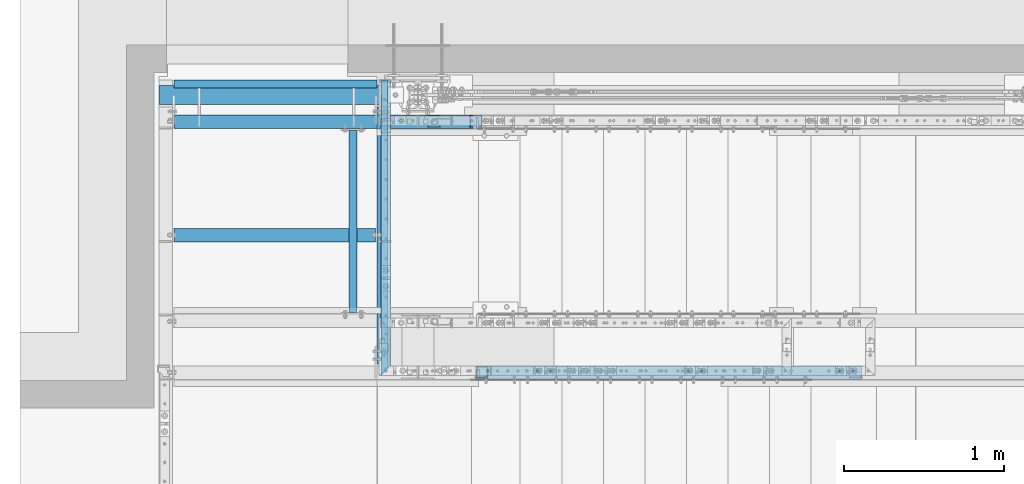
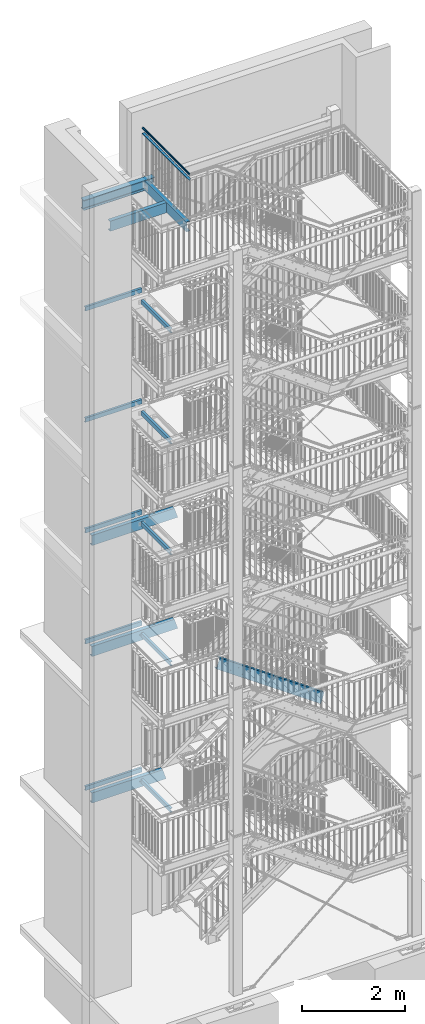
# One storey, part 123 of 825: 18 beams, 1 member, 55 openings.
"""IFC2X3 building model written with IfcOpenShell, lengths in millimetres."""

from ifc_helpers import new_model, entity, si_unit, converted_unit, frame, frame_2d, origin, origin_with_axes, origin_2d, origin_2d_with_axis, place, context, project, spatial, circle_curve, rectangle, circle, hollow_circle, i_section, u_section, outline, extrude, clip, halfspace, material, element, save


model = new_model("IFC2X3")

# Units and contexts
model_context = context("Model", 3, precision=1e-09, world=origin_with_axes())
ifc_project = project(units=[si_unit("LENGTHUNIT", "METRE", prefix="MILLI"), si_unit("AREAUNIT", "SQUARE_METRE"), si_unit("VOLUMEUNIT", "CUBIC_METRE"), converted_unit("PLANEANGLEUNIT", "DEGREE", entity("IfcPlaneAngleMeasure", 0.01745329), si_unit("PLANEANGLEUNIT", "RADIAN"), dimensions=[0, 0, 0, 0, 0, 0, 0])], contexts=[model_context])

# Site, building, storey
site_placement = place(None, origin_with_axes())
site = spatial("IfcSite", under=ifc_project, at=site_placement, Name="Cnopf'sche Kinderklinik", CompositionType="ELEMENT")
building_placement = place(site_placement, origin_with_axes())
building = spatial("IfcBuilding", under=site, at=building_placement, Name="Struktur 1", CompositionType="ELEMENT")
storey_placement = place(building_placement, origin_with_axes())
storey = spatial("IfcBuildingStorey", under=building, at=storey_placement, Name="Default Storey", CompositionType="ELEMENT", Elevation=0.0)

# Beam, openings
ifc_material = material(Name="S235JR")
beam_1_placement = place(None, frame((3074.409632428, 7329.036971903, 9832.0), z_axis=(1.0, 0.0, 0.0), x_axis=(0.0, 1.0, 0.0)))
beam_1 = element("IfcBeam", 1, at=beam_1_placement, inside=storey, material=ifc_material, Name="BottomLanding#2", ObjectType="BottomLanding#2", context=model_context, shape_type="Clipping", body=[
    clip(clip(extrude(u_section(Depth=240.0, FlangeWidth=85.0, WebThickness=9.5, FlangeThickness=13.0, FilletRadius=13.0, EdgeRadius=6.5, FlangeSlope=4.574, at=frame_2d((20.2, 0.0))), origin(), (0.0, 0.0, 1.0), 2366.776191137), halfspace(frame((-7329.036971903, -9832.0, 257.304770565), z_axis=(0.0, 0.0, 1.0), x_axis=(1.0, 0.0, 0.0)), True)), halfspace(frame((-7329.036971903, -7374.852372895, 4528.957619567), z_axis=(0.0, -0.307506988, -0.951545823), x_axis=(-1.0, 0.0, 0.0)), True)),
])
opening_1_placement = place(beam_1_placement, frame((-12.3, 20.0, 1377.303770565), z_axis=(-1.0, 0.0, 0.0), x_axis=(0.0, 0.0, 1.0)))
element("IfcOpeningElement", 2, at=opening_1_placement, cuts=beam_1, ObjectType="Opening", context=model_context, shape_type="SweptSolid", body=[
    extrude(circle(Radius=7.001, at=frame_2d((50.0, 0.0), x_axis=(1.0, 0.0))), origin(), (0.0, 0.0, 1.0), 10.5),
])
opening_2_placement = place(beam_1_placement, frame((-12.3, 20.0, 1377.303770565), z_axis=(-1.0, 0.0, 0.0), x_axis=(0.0, 0.0, 1.0)))
element("IfcOpeningElement", 3, at=opening_2_placement, cuts=beam_1, ObjectType="Opening", context=model_context, shape_type="SweptSolid", body=[
    extrude(circle(Radius=7.001, at=frame_2d((-50.0, 0.0), x_axis=(1.0, 0.0))), origin(), (0.0, 0.0, 1.0), 10.5),
])
opening_3_placement = place(beam_1_placement, frame((27.7, 120.5, 1670.302770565), z_axis=(0.0, 1.0, 0.0), x_axis=(-1.0, 0.0, 0.0)))
element("IfcOpeningElement", 4, at=opening_3_placement, cuts=beam_1, ObjectType="Opening", context=model_context, shape_type="SweptSolid", body=[
    extrude(circle(Radius=7.001, at=frame_2d((0.0, 7.001), x_axis=(1.0, 0.0))), origin(), (0.0, 0.0, -1.0), 14.0),
])
opening_4_placement = place(beam_1_placement, frame((27.7, 120.5, 1570.302770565), z_axis=(0.0, 1.0, 0.0), x_axis=(-1.0, 0.0, 0.0)))
element("IfcOpeningElement", 5, at=opening_4_placement, cuts=beam_1, ObjectType="Opening", context=model_context, shape_type="SweptSolid", body=[
    extrude(circle(Radius=7.001, at=frame_2d((0.0, 7.001), x_axis=(1.0, 0.0))), origin(), (0.0, 0.0, -1.0), 14.0),
])
opening_5_placement = place(beam_1_placement, frame((22.7, -120.5, 1732.303770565), z_axis=(0.0, 1.0, 0.0), x_axis=(1.0, 0.0, 0.0)))
element("IfcOpeningElement", 6, at=opening_5_placement, cuts=beam_1, ObjectType="Opening", context=model_context, shape_type="SweptSolid", body=[
    extrude(circle(Radius=7.001, at=origin_2d_with_axis()), origin(), (0.0, 0.0, 1.0), 14.0),
])
opening_6_placement = place(beam_1_placement, frame((22.7, -120.5, 1832.303770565), z_axis=(0.0, 1.0, 0.0), x_axis=(1.0, 0.0, 0.0)))
element("IfcOpeningElement", 7, at=opening_6_placement, cuts=beam_1, ObjectType="Opening", context=model_context, shape_type="SweptSolid", body=[
    extrude(circle(Radius=7.001, at=origin_2d_with_axis()), origin(), (0.0, 0.0, 1.0), 14.0),
])

beam_2_placement = place(None, frame((3074.409632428, 7329.036971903, 7200.0), z_axis=(1.0, 0.0, 0.0), x_axis=(0.0, 1.0, 0.0)))
beam_2 = element("IfcBeam", 8, at=beam_2_placement, inside=storey, material=ifc_material, Name="BottomLanding#2", ObjectType="BottomLanding#2", context=model_context, shape_type="Clipping", body=[
    clip(clip(extrude(u_section(Depth=240.0, FlangeWidth=85.0, WebThickness=9.5, FlangeThickness=13.0, FilletRadius=13.0, EdgeRadius=6.5, FlangeSlope=4.574, at=frame_2d((20.2, 0.0))), origin(), (0.0, 0.0, 1.0), 2366.919417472), halfspace(frame((-7329.036971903, -7200.0, 257.304770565), z_axis=(0.0, 0.0, 1.0), x_axis=(1.0, 0.0, 0.0)), True)), halfspace(frame((-7329.036971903, -4987.874923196, 3760.219943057), z_axis=(0.0, -0.307936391, -0.951406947), x_axis=(-1.0, 0.0, 0.0)), True)),
])
opening_7_placement = place(beam_2_placement, frame((-12.3, 20.0, 1377.303770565), z_axis=(-1.0, 0.0, 0.0), x_axis=(0.0, 0.0, 1.0)))
element("IfcOpeningElement", 9, at=opening_7_placement, cuts=beam_2, ObjectType="Opening", context=model_context, shape_type="SweptSolid", body=[
    extrude(circle(Radius=7.001, at=frame_2d((50.0, 0.0), x_axis=(1.0, 0.0))), origin(), (0.0, 0.0, 1.0), 10.5),
])
opening_8_placement = place(beam_2_placement, frame((-12.3, 20.0, 1377.303770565), z_axis=(-1.0, 0.0, 0.0), x_axis=(0.0, 0.0, 1.0)))
element("IfcOpeningElement", 10, at=opening_8_placement, cuts=beam_2, ObjectType="Opening", context=model_context, shape_type="SweptSolid", body=[
    extrude(circle(Radius=7.001, at=frame_2d((-50.0, 0.0), x_axis=(1.0, 0.0))), origin(), (0.0, 0.0, 1.0), 10.5),
])
opening_9_placement = place(beam_2_placement, frame((27.7, 120.5, 1670.302770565), z_axis=(0.0, 1.0, 0.0), x_axis=(-1.0, 0.0, 0.0)))
element("IfcOpeningElement", 11, at=opening_9_placement, cuts=beam_2, ObjectType="Opening", context=model_context, shape_type="SweptSolid", body=[
    extrude(circle(Radius=7.001, at=frame_2d((0.0, 7.001), x_axis=(1.0, 0.0))), origin(), (0.0, 0.0, -1.0), 14.0),
])
opening_10_placement = place(beam_2_placement, frame((27.7, 120.5, 1570.302770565), z_axis=(0.0, 1.0, 0.0), x_axis=(-1.0, 0.0, 0.0)))
element("IfcOpeningElement", 12, at=opening_10_placement, cuts=beam_2, ObjectType="Opening", context=model_context, shape_type="SweptSolid", body=[
    extrude(circle(Radius=7.001, at=frame_2d((0.0, 7.001), x_axis=(1.0, 0.0))), origin(), (0.0, 0.0, -1.0), 14.0),
])
opening_11_placement = place(beam_2_placement, frame((22.7, -120.5, 1732.303770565), z_axis=(0.0, 1.0, 0.0), x_axis=(1.0, 0.0, 0.0)))
element("IfcOpeningElement", 13, at=opening_11_placement, cuts=beam_2, ObjectType="Opening", context=model_context, shape_type="SweptSolid", body=[
    extrude(circle(Radius=7.001, at=origin_2d_with_axis()), origin(), (0.0, 0.0, 1.0), 14.0),
])
opening_12_placement = place(beam_2_placement, frame((22.7, -120.5, 1832.303770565), z_axis=(0.0, 1.0, 0.0), x_axis=(1.0, 0.0, 0.0)))
element("IfcOpeningElement", 14, at=opening_12_placement, cuts=beam_2, ObjectType="Opening", context=model_context, shape_type="SweptSolid", body=[
    extrude(circle(Radius=7.001, at=origin_2d_with_axis()), origin(), (0.0, 0.0, 1.0), 14.0),
])

# Beams
for number, where, z_axis, x_axis, name in (
    (15, (4442.213402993, 6157.236971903, 15114.0), (0.0, -1.0, 0.0), (1.0, 0.0, 0.0), "Girder"),
    (16, (4442.213402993, 6157.236971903, 12479.0), (0.0, -1.0, 0.0), (1.0, 0.0, 0.0), "Girder"),
    (17, (4442.213402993, 6157.236971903, 9852.0), (0.0, -1.0, 0.0), (1.0, 0.0, 0.0), "Girder"),
    (18, (4442.213402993, 6157.236971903, 7220.0), (0.0, -1.0, 0.0), (1.0, 0.0, 0.0), "Girder"),
    (19, (4442.213402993, 6157.236971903, 3747.0), (0.0, -1.0, 0.0), (1.0, 0.0, 0.0), "Girder"),
):
    element("IfcBeam", number, at=place(None, frame(where, z_axis=z_axis, x_axis=x_axis)), inside=storey, material=ifc_material, Name=name, ObjectType="Girder", context=model_context, shape_type="SweptSolid", body=[
        extrude(u_section(Depth=100.0, FlangeWidth=50.0, WebThickness=6.0, FlangeThickness=8.5, FilletRadius=8.5, EdgeRadius=4.5, FlangeSlope=4.574, at=frame_2d((9.5, 0.0))), origin(), (0.0, 0.0, -1.0), 1139.0),
    ])

# Beam, openings
beam_3_placement = place(None, frame((4624.013402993, 5836.736971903, 17713.999999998), z_axis=(0.0, -1.0, 0.0), x_axis=(1.0, 0.0, 0.0)))
beam_3 = element("IfcBeam", 20, at=beam_3_placement, inside=storey, material=ifc_material, Name="Girder", ObjectType="Girder", context=model_context, shape_type="SweptSolid", body=[
    extrude(u_section(Depth=240.0, FlangeWidth=85.0, WebThickness=9.5, FlangeThickness=13.0, FilletRadius=13.0, EdgeRadius=6.5, FlangeSlope=4.574, at=frame_2d((20.2, 0.0))), origin(), (0.0, 0.0, -1.0), 1605.0),
])
opening_13_placement = place(beam_3_placement, frame((-12.3, 50.000000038, -71.099), z_axis=(1.0, 0.0, 0.0), x_axis=(0.0, 1.0, 0.0)))
element("IfcOpeningElement", 21, at=opening_13_placement, cuts=beam_3, ObjectType="Opening", context=model_context, shape_type="SweptSolid", body=[
    extrude(circle(Radius=7.001, at=frame_2d((0.0, -7.001), x_axis=(1.0, 0.0))), origin(), (0.0, 0.0, -1.0), 10.5),
])
opening_14_placement = place(beam_3_placement, frame((-12.3, 50.000000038, -21.099), z_axis=(1.0, 0.0, 0.0), x_axis=(0.0, 1.0, 0.0)))
element("IfcOpeningElement", 22, at=opening_14_placement, cuts=beam_3, ObjectType="Opening", context=model_context, shape_type="SweptSolid", body=[
    extrude(circle(Radius=7.001, at=frame_2d((0.0, -7.001), x_axis=(1.0, 0.0))), origin(), (0.0, 0.0, -1.0), 10.5),
])
opening_15_placement = place(beam_3_placement, frame((-12.3, -49.999999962, -71.099), z_axis=(1.0, 0.0, 0.0), x_axis=(0.0, 1.0, 0.0)))
element("IfcOpeningElement", 23, at=opening_15_placement, cuts=beam_3, ObjectType="Opening", context=model_context, shape_type="SweptSolid", body=[
    extrude(circle(Radius=7.001, at=frame_2d((0.0, -7.001), x_axis=(1.0, 0.0))), origin(), (0.0, 0.0, -1.0), 10.5),
])
opening_16_placement = place(beam_3_placement, frame((-12.3, -49.999999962, -21.099), z_axis=(1.0, 0.0, 0.0), x_axis=(0.0, 1.0, 0.0)))
element("IfcOpeningElement", 24, at=opening_16_placement, cuts=beam_3, ObjectType="Opening", context=model_context, shape_type="SweptSolid", body=[
    extrude(circle(Radius=7.001, at=frame_2d((0.0, -7.001), x_axis=(1.0, 0.0))), origin(), (0.0, 0.0, -1.0), 10.5),
])
opening_17_placement = place(beam_3_placement, frame((-12.3, 3.8e-08, -1551.9), z_axis=(-1.0, 0.0, 0.0), x_axis=(0.0, 0.0, 1.0)))
element("IfcOpeningElement", 25, at=opening_17_placement, cuts=beam_3, ObjectType="Opening", context=model_context, shape_type="SweptSolid", body=[
    extrude(circle(Radius=7.001, at=frame_2d((25.0, 50.0), x_axis=(1.0, 0.0))), origin(), (0.0, 0.0, 1.0), 10.5),
])
opening_18_placement = place(beam_3_placement, frame((-12.3, 3.8e-08, -1551.9), z_axis=(-1.0, 0.0, 0.0), x_axis=(0.0, 0.0, 1.0)))
element("IfcOpeningElement", 26, at=opening_18_placement, cuts=beam_3, ObjectType="Opening", context=model_context, shape_type="SweptSolid", body=[
    extrude(circle(Radius=7.001, at=frame_2d((-25.0, 50.0), x_axis=(1.0, 0.0))), origin(), (0.0, 0.0, 1.0), 10.5),
])
opening_19_placement = place(beam_3_placement, frame((-12.3, 3.8e-08, -1551.9), z_axis=(-1.0, 0.0, 0.0), x_axis=(0.0, 0.0, 1.0)))
element("IfcOpeningElement", 27, at=opening_19_placement, cuts=beam_3, ObjectType="Opening", context=model_context, shape_type="SweptSolid", body=[
    extrude(circle(Radius=7.001, at=frame_2d((25.0, -50.0), x_axis=(1.0, 0.0))), origin(), (0.0, 0.0, 1.0), 10.5),
])
opening_20_placement = place(beam_3_placement, frame((-12.3, 3.8e-08, -1551.9), z_axis=(-1.0, 0.0, 0.0), x_axis=(0.0, 0.0, 1.0)))
element("IfcOpeningElement", 28, at=opening_20_placement, cuts=beam_3, ObjectType="Opening", context=model_context, shape_type="SweptSolid", body=[
    extrude(circle(Radius=7.001, at=frame_2d((-25.0, -50.0), x_axis=(1.0, 0.0))), origin(), (0.0, 0.0, 1.0), 10.5),
])
opening_21_placement = place(beam_3_placement, frame((32.7, 120.5, -1567.999), z_axis=(0.0, 1.0, 0.0), x_axis=(-1.0, 0.0, 0.0)))
element("IfcOpeningElement", 29, at=opening_21_placement, cuts=beam_3, ObjectType="Opening", context=model_context, shape_type="SweptSolid", body=[
    extrude(circle(Radius=7.001, at=frame_2d((0.0, -7.001), x_axis=(1.0, 0.0))), origin(), (0.0, 0.0, -1.0), 14.0),
])
opening_22_placement = place(beam_3_placement, frame((32.7, 120.5, -1467.999), z_axis=(0.0, 1.0, 0.0), x_axis=(-1.0, 0.0, 0.0)))
element("IfcOpeningElement", 30, at=opening_22_placement, cuts=beam_3, ObjectType="Opening", context=model_context, shape_type="SweptSolid", body=[
    extrude(circle(Radius=7.001, at=frame_2d((0.0, -7.001), x_axis=(1.0, 0.0))), origin(), (0.0, 0.0, -1.0), 14.0),
])
opening_23_placement = place(beam_3_placement, frame((32.7, 120.5, -576.74875), z_axis=(0.0, 1.0, 0.0), x_axis=(-1.0, 0.0, 0.0)))
element("IfcOpeningElement", 31, at=opening_23_placement, cuts=beam_3, ObjectType="Opening", context=model_context, shape_type="SweptSolid", body=[
    extrude(circle(Radius=7.001, at=frame_2d((0.0, -7.001), x_axis=(1.0, 0.0))), origin(), (0.0, 0.0, -1.0), 14.0),
])
opening_24_placement = place(beam_3_placement, frame((32.7, 120.5, -476.74875), z_axis=(0.0, 1.0, 0.0), x_axis=(-1.0, 0.0, 0.0)))
element("IfcOpeningElement", 32, at=opening_24_placement, cuts=beam_3, ObjectType="Opening", context=model_context, shape_type="SweptSolid", body=[
    extrude(circle(Radius=7.001, at=frame_2d((0.0, -7.001), x_axis=(1.0, 0.0))), origin(), (0.0, 0.0, -1.0), 14.0),
])
opening_25_placement = place(beam_3_placement, frame((-22.8, 50.999, -805.0), z_axis=(-1.0, 0.0, 0.0), x_axis=(0.0, -1.0, 0.0)))
element("IfcOpeningElement", 33, at=opening_25_placement, cuts=beam_3, ObjectType="Opening", context=model_context, shape_type="SweptSolid", body=[
    extrude(circle(Radius=9.001, at=frame_2d((-9.001, 0.0), x_axis=(1.0, 0.0))), origin(), (0.0, 0.0, -1.0), 10.5),
])
opening_26_placement = place(beam_3_placement, frame((-22.8, -69.001, -805.0), z_axis=(-1.0, 0.0, 0.0), x_axis=(0.0, -1.0, 0.0)))
element("IfcOpeningElement", 34, at=opening_26_placement, cuts=beam_3, ObjectType="Opening", context=model_context, shape_type="SweptSolid", body=[
    extrude(circle(Radius=9.001, at=frame_2d((-9.001, 0.0), x_axis=(1.0, 0.0))), origin(), (0.0, 0.0, -1.0), 10.5),
])

# Beams
beam_4_placement = place(None, frame((4849.017173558, 6619.036971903, 17713.999999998), z_axis=(1.0, 0.0, 0.0), x_axis=(0.0, 1.0, 0.0)))
element("IfcBeam", 35, at=beam_4_placement, inside=storey, material=ifc_material, Name="Girder", ObjectType="Girder", context=model_context, shape_type="Clipping", body=[
    clip(clip(extrude(u_section(Depth=240.0, FlangeWidth=85.0, WebThickness=9.5, FlangeThickness=13.0, FilletRadius=13.0, EdgeRadius=6.5, FlangeSlope=4.574, at=frame_2d((20.2, 0.0))), origin(), (0.0, 0.0, -1.0), 1774.60754113), halfspace(frame((-6619.036971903, -17713.999999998, -1517.302770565), z_axis=(0.0, 0.0, 1.0), x_axis=(1.0, 0.0, 0.0)), True)), halfspace(frame((-6619.036971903, -17713.999999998, -257.304770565), z_axis=(0.0, 0.0, -1.0), x_axis=(-1.0, 0.0, 0.0)), True)),
])
for number, where, z_axis, x_axis, name in (
    (36, (4601.713402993, 7577.236971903, 3797.0), (1.0, 0.0, 0.0), (0.0, 1.0, 0.0), "TopLanding#1"),
    (37, (4601.713402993, 7577.236971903, 7270.0), (1.0, 0.0, 0.0), (0.0, 1.0, 0.0), "TopLanding#1"),
    (38, (4601.713402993, 7577.236971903, 9902.0), (1.0, 0.0, 0.0), (0.0, 1.0, 0.0), "TopLanding#1"),
    (39, (4601.713402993, 7577.236971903, 12529.0), (1.0, 0.0, 0.0), (0.0, 1.0, 0.0), "TopLanding#1"),
    (40, (4601.713402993, 7577.236971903, 15164.0), (1.0, 0.0, 0.0), (0.0, 1.0, 0.0), "TopLanding#1"),
):
    element("IfcBeam", number, at=place(None, frame(where, z_axis=z_axis, x_axis=x_axis)), inside=storey, material=ifc_material, Name=name, ObjectType="TopLanding#1", context=model_context, shape_type="SweptSolid", body=[
        extrude(u_section(Depth=100.0, FlangeWidth=50.0, WebThickness=6.0, FlangeThickness=8.5, FilletRadius=8.5, EdgeRadius=4.5, FlangeSlope=4.574, at=frame_2d((9.5, 0.0))), origin(), (0.0, 0.0, -1.0), 1270.0),
    ])

# Beam, openings
beam_5_placement = place(None, frame((3074.409632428, 7329.036971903, 3727.0), z_axis=(1.0, 0.0, 0.0), x_axis=(0.0, 1.0, 0.0)))
beam_5 = element("IfcBeam", 41, at=beam_5_placement, inside=storey, material=ifc_material, Name="BottomLanding#2", ObjectType="BottomLanding#2", context=model_context, shape_type="Clipping", body=[
    clip(clip(extrude(u_section(Depth=240.0, FlangeWidth=85.0, WebThickness=9.5, FlangeThickness=13.0, FilletRadius=13.0, EdgeRadius=6.5, FlangeSlope=4.574, at=frame_2d((20.2, 0.0))), origin(), (0.0, 0.0, 1.0), 2104.790555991), halfspace(frame((-7329.036971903, -3727.0, 257.304770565), z_axis=(0.0, 0.0, 1.0), x_axis=(1.0, 0.0, 0.0)), True)), halfspace(frame((-7329.036971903, -1962.281935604, 2504.118187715), z_axis=(0.0, -0.301609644, -0.953431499), x_axis=(-1.0, 0.0, 0.0)), True)),
])
opening_27_placement = place(beam_5_placement, frame((-12.3, 20.0, 1377.303770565), z_axis=(-1.0, 0.0, 0.0), x_axis=(0.0, 0.0, 1.0)))
element("IfcOpeningElement", 42, at=opening_27_placement, cuts=beam_5, ObjectType="Opening", context=model_context, shape_type="SweptSolid", body=[
    extrude(circle(Radius=7.001, at=frame_2d((50.0, 0.0), x_axis=(1.0, 0.0))), origin(), (0.0, 0.0, 1.0), 10.5),
])
opening_28_placement = place(beam_5_placement, frame((-12.3, 20.0, 1377.303770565), z_axis=(-1.0, 0.0, 0.0), x_axis=(0.0, 0.0, 1.0)))
element("IfcOpeningElement", 43, at=opening_28_placement, cuts=beam_5, ObjectType="Opening", context=model_context, shape_type="SweptSolid", body=[
    extrude(circle(Radius=7.001, at=frame_2d((-50.0, 0.0), x_axis=(1.0, 0.0))), origin(), (0.0, 0.0, 1.0), 10.5),
])
opening_29_placement = place(beam_5_placement, frame((27.7, 120.5, 1670.302770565), z_axis=(0.0, 1.0, 0.0), x_axis=(-1.0, 0.0, 0.0)))
element("IfcOpeningElement", 44, at=opening_29_placement, cuts=beam_5, ObjectType="Opening", context=model_context, shape_type="SweptSolid", body=[
    extrude(circle(Radius=7.001, at=frame_2d((0.0, 7.001), x_axis=(1.0, 0.0))), origin(), (0.0, 0.0, -1.0), 14.0),
])
opening_30_placement = place(beam_5_placement, frame((27.7, 120.5, 1570.302770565), z_axis=(0.0, 1.0, 0.0), x_axis=(-1.0, 0.0, 0.0)))
element("IfcOpeningElement", 45, at=opening_30_placement, cuts=beam_5, ObjectType="Opening", context=model_context, shape_type="SweptSolid", body=[
    extrude(circle(Radius=7.001, at=frame_2d((0.0, 7.001), x_axis=(1.0, 0.0))), origin(), (0.0, 0.0, -1.0), 14.0),
])
opening_31_placement = place(beam_5_placement, frame((22.7, -120.5, 1732.303770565), z_axis=(0.0, 1.0, 0.0), x_axis=(1.0, 0.0, 0.0)))
element("IfcOpeningElement", 46, at=opening_31_placement, cuts=beam_5, ObjectType="Opening", context=model_context, shape_type="SweptSolid", body=[
    extrude(circle(Radius=7.001, at=origin_2d_with_axis()), origin(), (0.0, 0.0, 1.0), 14.0),
])
opening_32_placement = place(beam_5_placement, frame((22.7, -120.5, 1832.303770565), z_axis=(0.0, 1.0, 0.0), x_axis=(1.0, 0.0, 0.0)))
element("IfcOpeningElement", 47, at=opening_32_placement, cuts=beam_5, ObjectType="Opening", context=model_context, shape_type="SweptSolid", body=[
    extrude(circle(Radius=7.001, at=origin_2d_with_axis()), origin(), (0.0, 0.0, 1.0), 14.0),
])

# Member, openings
member_placement = place(None, frame((7776.785634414, 5759.036971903, 5427.548742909), z_axis=(0.818063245, 0.0, -0.57512827), x_axis=(0.0, 1.0, 0.0)))
member = element("IfcMember", 48, at=member_placement, inside=storey, material=ifc_material, Name="Stringer#2", ObjectType="Stringer#2", context=model_context, shape_type="Clipping", body=[
    clip(clip(extrude(u_section(Depth=240.0, FlangeWidth=85.0, WebThickness=9.5, FlangeThickness=13.0, FilletRadius=13.0, EdgeRadius=6.5, FlangeSlope=4.574, at=frame_2d((20.2, 0.0))), origin(), (0.0, 0.0, -1.0), 3379.180219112), halfspace(frame((-5759.036971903, -7233.811372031, 2066.929465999), z_axis=(0.0, -0.301609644, -0.953431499), x_axis=(-1.0, 0.0, 0.0)), True)), halfspace(frame((-5759.036971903, -8056.363400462, -533.275895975), z_axis=(0.0, 0.301609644, 0.953431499), x_axis=(1.0, 0.0, 0.0)), True)),
])
opening_33_placement = place(member_placement, frame((-22.8, -48.646056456, -1744.479436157), z_axis=(1.0, 0.0, 0.0), x_axis=(0.0, -0.57512827, -0.818063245)))
element("IfcOpeningElement", 49, at=opening_33_placement, cuts=member, ObjectType="Opening", context=model_context, shape_type="SweptSolid", body=[
    extrude(circle(Radius=7.001, at=origin_2d_with_axis()), origin(), (0.0, 0.0, 1.0), 10.5),
])
opening_34_placement = place(member_placement, frame((-22.8, -48.646056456, -3015.774786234), z_axis=(1.0, 0.0, 0.0), x_axis=(0.0, -0.57512827, -0.818063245)))
element("IfcOpeningElement", 50, at=opening_34_placement, cuts=member, ObjectType="Opening", context=model_context, shape_type="SweptSolid", body=[
    extrude(circle(Radius=7.001, at=origin_2d_with_axis()), origin(), (0.0, 0.0, 1.0), 10.5),
])
opening_35_placement = place(member_placement, frame((-22.8, -48.646056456, -2697.950948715), z_axis=(1.0, 0.0, 0.0), x_axis=(0.0, -0.57512827, -0.818063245)))
element("IfcOpeningElement", 51, at=opening_35_placement, cuts=member, ObjectType="Opening", context=model_context, shape_type="SweptSolid", body=[
    extrude(circle(Radius=7.001, at=origin_2d_with_axis()), origin(), (0.0, 0.0, 1.0), 10.5),
])
opening_36_placement = place(member_placement, frame((-22.8, 54.877032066, -1915.051889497), z_axis=(1.0, 0.0, 0.0), x_axis=(0.0, -0.57512827, -0.818063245)))
element("IfcOpeningElement", 52, at=opening_36_placement, cuts=member, ObjectType="Opening", context=model_context, shape_type="SweptSolid", body=[
    extrude(circle(Radius=7.001, at=origin_2d_with_axis()), origin(), (0.0, 0.0, 1.0), 10.5),
])
opening_37_placement = place(member_placement, frame((-22.8, -48.646056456, -1426.655598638), z_axis=(1.0, 0.0, 0.0), x_axis=(0.0, -0.57512827, -0.818063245)))
element("IfcOpeningElement", 53, at=opening_37_placement, cuts=member, ObjectType="Opening", context=model_context, shape_type="SweptSolid", body=[
    extrude(circle(Radius=7.001, at=origin_2d_with_axis()), origin(), (0.0, 0.0, 1.0), 10.5),
])
opening_38_placement = place(member_placement, frame((-22.8, 54.877032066, -2232.875727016), z_axis=(1.0, 0.0, 0.0), x_axis=(0.0, -0.57512827, -0.818063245)))
element("IfcOpeningElement", 54, at=opening_38_placement, cuts=member, ObjectType="Opening", context=model_context, shape_type="SweptSolid", body=[
    extrude(circle(Radius=7.001, at=origin_2d_with_axis()), origin(), (0.0, 0.0, 1.0), 10.5),
])
opening_39_placement = place(member_placement, frame((-22.8, 54.877032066, -2550.699564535), z_axis=(1.0, 0.0, 0.0), x_axis=(0.0, -0.57512827, -0.818063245)))
element("IfcOpeningElement", 55, at=opening_39_placement, cuts=member, ObjectType="Opening", context=model_context, shape_type="SweptSolid", body=[
    extrude(circle(Radius=7.001, at=origin_2d_with_axis()), origin(), (0.0, 0.0, 1.0), 10.5),
])
opening_40_placement = place(member_placement, frame((-22.8, -48.646056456, -2380.127111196), z_axis=(1.0, 0.0, 0.0), x_axis=(0.0, -0.57512827, -0.818063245)))
element("IfcOpeningElement", 56, at=opening_40_placement, cuts=member, ObjectType="Opening", context=model_context, shape_type="SweptSolid", body=[
    extrude(circle(Radius=7.001, at=origin_2d_with_axis()), origin(), (0.0, 0.0, 1.0), 10.5),
])
opening_41_placement = place(member_placement, frame((-22.8, -48.646056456, -2062.303273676), z_axis=(1.0, 0.0, 0.0), x_axis=(0.0, -0.57512827, -0.818063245)))
element("IfcOpeningElement", 57, at=opening_41_placement, cuts=member, ObjectType="Opening", context=model_context, shape_type="SweptSolid", body=[
    extrude(circle(Radius=7.001, at=origin_2d_with_axis()), origin(), (0.0, 0.0, 1.0), 10.5),
])
opening_42_placement = place(member_placement, frame((-22.8, 54.877032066, -961.580376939), z_axis=(1.0, 0.0, 0.0), x_axis=(0.0, -0.57512827, -0.818063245)))
element("IfcOpeningElement", 58, at=opening_42_placement, cuts=member, ObjectType="Opening", context=model_context, shape_type="SweptSolid", body=[
    extrude(circle(Radius=7.001, at=origin_2d_with_axis()), origin(), (0.0, 0.0, 1.0), 10.5),
])
opening_43_placement = place(member_placement, frame((-22.8, 54.877032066, -2868.523402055), z_axis=(1.0, 0.0, 0.0), x_axis=(0.0, -0.57512827, -0.818063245)))
element("IfcOpeningElement", 59, at=opening_43_placement, cuts=member, ObjectType="Opening", context=model_context, shape_type="SweptSolid", body=[
    extrude(circle(Radius=7.001, at=origin_2d_with_axis()), origin(), (0.0, 0.0, 1.0), 10.5),
])
opening_44_placement = place(member_placement, frame((-22.8, 54.877032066, -1279.404214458), z_axis=(1.0, 0.0, 0.0), x_axis=(0.0, -0.57512827, -0.818063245)))
element("IfcOpeningElement", 60, at=opening_44_placement, cuts=member, ObjectType="Opening", context=model_context, shape_type="SweptSolid", body=[
    extrude(circle(Radius=7.001, at=origin_2d_with_axis()), origin(), (0.0, 0.0, 1.0), 10.5),
])
opening_45_placement = place(member_placement, frame((-22.8, 54.877032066, -1597.228051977), z_axis=(1.0, 0.0, 0.0), x_axis=(0.0, -0.57512827, -0.818063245)))
element("IfcOpeningElement", 61, at=opening_45_placement, cuts=member, ObjectType="Opening", context=model_context, shape_type="SweptSolid", body=[
    extrude(circle(Radius=7.001, at=origin_2d_with_axis()), origin(), (0.0, 0.0, 1.0), 10.5),
])
opening_46_placement = place(member_placement, frame((-22.8, -48.646056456, -791.007923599), z_axis=(1.0, 0.0, 0.0), x_axis=(0.0, -0.57512827, -0.818063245)))
element("IfcOpeningElement", 62, at=opening_46_placement, cuts=member, ObjectType="Opening", context=model_context, shape_type="SweptSolid", body=[
    extrude(circle(Radius=7.001, at=origin_2d_with_axis()), origin(), (0.0, 0.0, 1.0), 10.5),
])
opening_47_placement = place(member_placement, frame((-22.8, -48.646056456, -1108.831761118), z_axis=(1.0, 0.0, 0.0), x_axis=(0.0, -0.57512827, -0.818063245)))
element("IfcOpeningElement", 63, at=opening_47_placement, cuts=member, ObjectType="Opening", context=model_context, shape_type="SweptSolid", body=[
    extrude(circle(Radius=7.001, at=origin_2d_with_axis()), origin(), (0.0, 0.0, 1.0), 10.5),
])
opening_48_placement = place(member_placement, frame((-22.8, 54.877032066, -643.756539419), z_axis=(1.0, 0.0, 0.0), x_axis=(0.0, -0.57512827, -0.818063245)))
element("IfcOpeningElement", 64, at=opening_48_placement, cuts=member, ObjectType="Opening", context=model_context, shape_type="SweptSolid", body=[
    extrude(circle(Radius=7.001, at=origin_2d_with_axis()), origin(), (0.0, 0.0, 1.0), 10.5),
])
opening_49_placement = place(member_placement, frame((32.7, 120.5, -422.7487057), z_axis=(0.0, 1.0, 0.0), x_axis=(-1.0, 0.0, 0.0)))
element("IfcOpeningElement", 65, at=opening_49_placement, cuts=member, ObjectType="Opening", context=model_context, shape_type="SweptSolid", body=[
    extrude(circle(Radius=7.001, at=frame_2d((0.0, -7.001), x_axis=(1.0, 0.0))), origin(), (0.0, 0.0, -1.0), 14.0),
])
opening_50_placement = place(member_placement, frame((32.7, 120.5, -322.7487057), z_axis=(0.0, 1.0, 0.0), x_axis=(-1.0, 0.0, 0.0)))
element("IfcOpeningElement", 66, at=opening_50_placement, cuts=member, ObjectType="Opening", context=model_context, shape_type="SweptSolid", body=[
    extrude(circle(Radius=7.001, at=frame_2d((0.0, -7.001), x_axis=(1.0, 0.0))), origin(), (0.0, 0.0, -1.0), 14.0),
])
opening_51_placement = place(member_placement, frame((32.7, 120.5, -1577.916522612), z_axis=(0.0, 1.0, 0.0), x_axis=(-1.0, 0.0, 0.0)))
element("IfcOpeningElement", 67, at=opening_51_placement, cuts=member, ObjectType="Opening", context=model_context, shape_type="SweptSolid", body=[
    extrude(circle(Radius=7.001, at=frame_2d((0.0, -7.001), x_axis=(1.0, 0.0))), origin(), (0.0, 0.0, -1.0), 14.0),
])
opening_52_placement = place(member_placement, frame((32.7, 120.5, -1477.916522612), z_axis=(0.0, 1.0, 0.0), x_axis=(-1.0, 0.0, 0.0)))
element("IfcOpeningElement", 68, at=opening_52_placement, cuts=member, ObjectType="Opening", context=model_context, shape_type="SweptSolid", body=[
    extrude(circle(Radius=7.001, at=frame_2d((0.0, -7.001), x_axis=(1.0, 0.0))), origin(), (0.0, 0.0, -1.0), 14.0),
])
opening_53_placement = place(member_placement, frame((32.7, 120.5, -2733.084339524), z_axis=(0.0, 1.0, 0.0), x_axis=(-1.0, 0.0, 0.0)))
element("IfcOpeningElement", 69, at=opening_53_placement, cuts=member, ObjectType="Opening", context=model_context, shape_type="SweptSolid", body=[
    extrude(circle(Radius=7.001, at=frame_2d((0.0, -7.001), x_axis=(1.0, 0.0))), origin(), (0.0, 0.0, -1.0), 14.0),
])
opening_54_placement = place(member_placement, frame((32.7, 120.5, -2633.084339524), z_axis=(0.0, 1.0, 0.0), x_axis=(-1.0, 0.0, 0.0)))
element("IfcOpeningElement", 70, at=opening_54_placement, cuts=member, ObjectType="Opening", context=model_context, shape_type="SweptSolid", body=[
    extrude(circle(Radius=7.001, at=frame_2d((0.0, -7.001), x_axis=(1.0, 0.0))), origin(), (0.0, 0.0, -1.0), 14.0),
])

# Beams
beam_6_placement = place(None, frame((4647.913402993, 5740.536971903, 18974.0), z_axis=(0.0, -1.0, 0.0), x_axis=(0.0, 0.0, -1.0)))
element("IfcBeam", 71, at=beam_6_placement, inside=storey, material=ifc_material, Name="Gel?nder", ObjectType="Gel?nder", context=model_context, shape_type="Clipping", body=[
    clip(extrude(hollow_circle(Radius=21.2, WallThickness=3.2, at=origin_2d()), origin(), (0.0, 0.0, -1.0), 1868.2), halfspace(frame((18974.0, -5215.425894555, 5173.024480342), z_axis=(0.0, -0.707106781, -0.707106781), x_axis=(0.0, -0.707106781, 0.707106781)), True)),
])
beam_7_placement = place(None, frame((4656.713402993, 5748.725345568, 18847.8), z_axis=(0.0, -1.0, 0.0), x_axis=(0.0, 0.0, -1.0)))
element("IfcBeam", 72, at=beam_7_placement, inside=storey, material=ifc_material, Name="Railing_Kneerail_Landing#1006", ObjectType="Railing_Kneerail_Landing#1006", context=model_context, shape_type="Clipping", body=[
    clip(extrude(rectangle(XDim=10.0, YDim=60.0, at=origin_2d()), origin(), (0.0, 0.0, -1.0), 1863.011626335), halfspace(frame((18847.8, -5224.225894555, 5181.212854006), z_axis=(0.0, -0.707106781, -0.707106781), x_axis=(0.0, -0.707106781, 0.707106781)), True)),
])

# Beam, opening
beam_8_placement = place(None, frame((4990.877481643, 7516.736971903, 17713.999999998), z_axis=(-1.0, 0.0, 0.0), x_axis=(0.0, 1.0, 0.0)))
beam_8 = element("IfcBeam", 73, at=beam_8_placement, inside=storey, material=ifc_material, Name="Girder", ObjectType="Girder", context=model_context, shape_type="Clipping", body=[
    clip(extrude(i_section(OverallWidth=120.0, OverallDepth=240.0, WebThickness=6.2, FlangeThickness=9.8, FilletRadius=15.0, at=origin_2d()), origin(), (0.0, 0.0, 1.0), 1754.16407865), halfspace(frame((-7516.736971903, 17713.999999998, 157.415078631), z_axis=(0.0, 0.0, 1.0), x_axis=(-1.0, 0.0, 0.0)), True)),
])
opening_55_placement = place(beam_8_placement, frame((-160.1, -55.000000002, 309.165078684), z_axis=(-1.0, 0.0, 0.0), x_axis=(0.0, -1.0, 0.0)))
element("IfcOpeningElement", 74, at=opening_55_placement, cuts=beam_8, ObjectType="Opening", context=model_context, shape_type="SweptSolid", body=[
    extrude(outline(circle_curve(frame_2d((0.0, -25.001), x_axis=(1.0, 0.0)), 25.001)), origin(), (0.0, 0.0, -1.0), 320.2),
])

save(model, "model.ifc")
